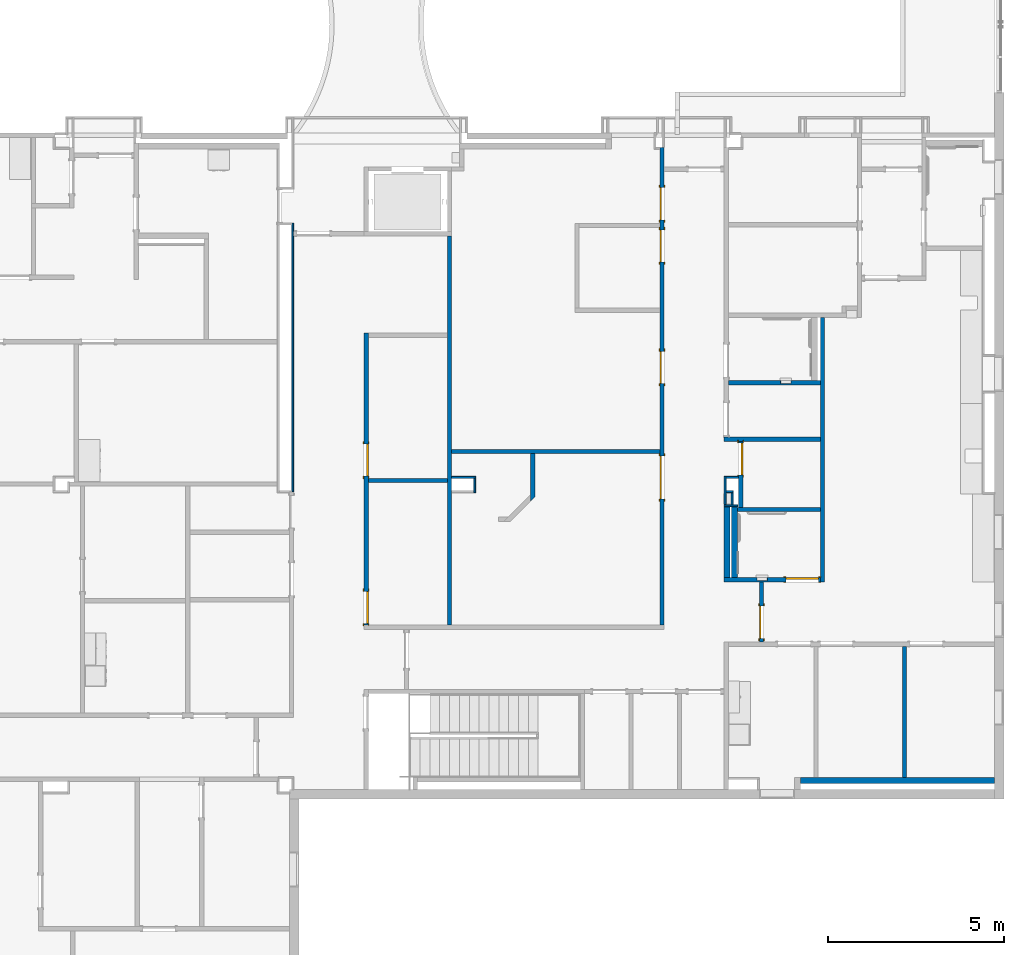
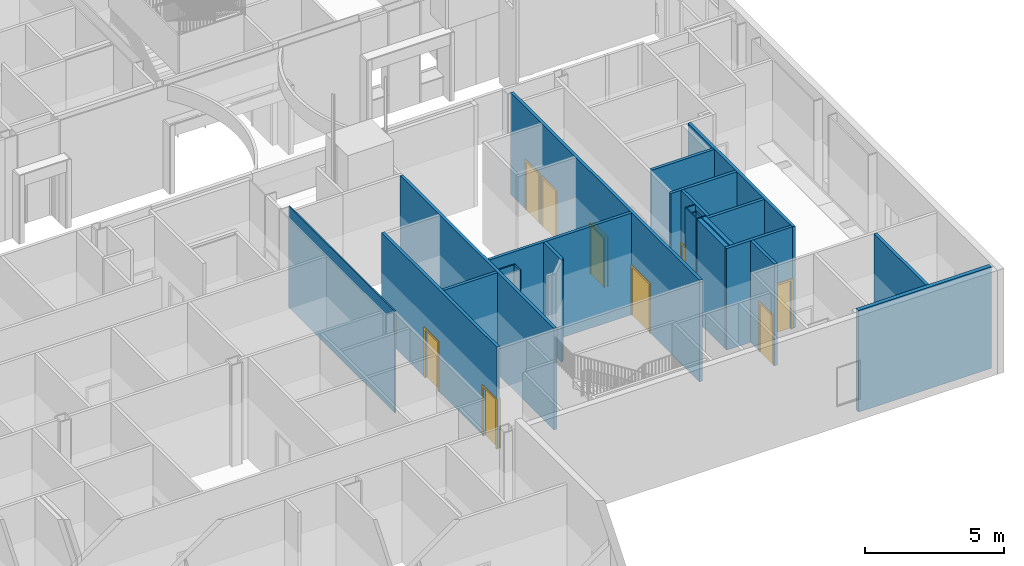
# One storey, part 24 of 82: 25 walls, 9 doors, 11 openings.
"""IFC2X3 building model written with IfcOpenShell, lengths in metres."""

from ifc_helpers import new_model, entity, si_unit, converted_unit, frame, frame_2d, origin, origin_2d_with_axis, place, context, project, spatial, polyline, rectangle, outline, extrude, source, transform, mapped, material, layer, layer_set, layer_usage, type_object, type_shapes, element, fill, save


model = new_model("IFC2X3")

# Units and contexts
model_context = context("Model", 3, precision=1e-09, world=origin())
plan_context = context("Plan", 3, precision=1e-09, world=origin())
ifc_project = project(units=[si_unit("LENGTHUNIT", "METRE"), si_unit("AREAUNIT", "SQUARE_METRE"), si_unit("VOLUMEUNIT", "CUBIC_METRE"), converted_unit("PLANEANGLEUNIT", "DEGREE", entity("IfcRatioMeasure", 0.01745329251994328), si_unit("PLANEANGLEUNIT", "RADIAN"), dimensions=[0, 0, 0, 0, 0, 0, 0]), si_unit("TIMEUNIT", "SECOND")], contexts=[model_context, plan_context])

# Site, building, storey
site_placement = place(None, origin())
site = spatial("IfcSite", under=ifc_project, at=site_placement, Name="Default", CompositionType="ELEMENT")
building_placement = place(site_placement, origin())
building = spatial("IfcBuilding", under=site, at=building_placement, CompositionType="ELEMENT")
storey_placement = place(building_placement, origin())
storey = spatial("IfcBuildingStorey", under=building, at=storey_placement, Name="First Floor", CompositionType="ELEMENT", Elevation=-3.531500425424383e-13)

# Wall
ifc_material_1 = material(Name="Plasterboard")
ifc_layer_1 = layer(ifc_material_1, 0.016)
ifc_material_2 = material(Name="Metal - Stud Layer")
ifc_layer_2 = layer(ifc_material_2, 0.092)
ifc_layer_3 = layer(ifc_material_1, 0.016)
ifc_layer_set_1 = layer_set([ifc_layer_1, ifc_layer_2, ifc_layer_3], Name="Basic Wall:Interior - Partition (92mm Stud)")
ifc_layer_usage_1 = layer_usage(ifc_layer_set_1, "AXIS2", "NEGATIVE", 0.062)
wall_1_placement = place(storey_placement, frame((-15.3980000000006, 14.6139999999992, 0.0), z_axis=(0.0, 0.0, 1.0), x_axis=(0.0, 1.0, 0.0)))
element("IfcWallStandardCase", 1, at=wall_1_placement, inside=storey, material=ifc_layer_usage_1, Name="Basic Wall:Interior - Partition (92mm Stud)", ObjectType="Basic Wall:Interior - Partition (92mm Stud)", context=model_context, shape_type="SweptSolid", body=[
    extrude(rectangle(XDim=11.06940000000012, YDim=0.1240000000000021, at=frame_2d((5.534700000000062, 0.0), x_axis=(-1.0, 0.0))), origin(), (0.0, 0.0, 1.0), 4.468000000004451),
])

# Wall, openings, doors
wall_2_placement = place(storey_placement, frame((-9.351975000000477, 28.2039999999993, 0.0), z_axis=(0.0, 0.0, 1.0), x_axis=(0.0, -1.0, 0.0)))
wall_2 = element("IfcWallStandardCase", 2, at=wall_2_placement, inside=storey, material=ifc_layer_usage_1, Name="Basic Wall:Interior - Partition (92mm Stud)", ObjectType="Basic Wall:Interior - Partition (92mm Stud)", context=model_context, shape_type="SweptSolid", body=[
    extrude(rectangle(XDim=13.59000000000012, YDim=0.124, at=frame_2d((6.795000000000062, 0.0), x_axis=(-1.0, 0.0))), origin(), (0.0, 0.0, 1.0), 4.46800000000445),
])
opening_1_placement = place(wall_2_placement, frame((3.263000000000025, 0.06199999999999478, 0.0)))
opening_1 = element("IfcOpeningElement", 3, at=opening_1_placement, cuts=wall_2, Name="M_Single-Flush:0915 x 2134mm:0915 x 2134mm:1", ObjectType="Opening", context=model_context, shape_type="SweptSolid", body=[
    extrude(rectangle(XDim=0.9149999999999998, YDim=2.134, at=frame_2d((1.067, 0.4575), x_axis=(0.0, 1.0))), frame((0.0, 0.0, 0.0), z_axis=(0.0, -1.0, 0.0), x_axis=(0.0, 0.0, 1.0)), (0.0, 0.0, 1.0), 0.124),
])
opening_2_placement = place(wall_2_placement, frame((2.064000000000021, 0.06199999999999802, 0.0)))
opening_2 = element("IfcOpeningElement", 4, at=opening_2_placement, cuts=wall_2, Name="M_Single-Flush:0915 x 2134mm:0915 x 2134mm:1", ObjectType="Opening", context=model_context, shape_type="SweptSolid", body=[
    extrude(rectangle(XDim=0.9149999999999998, YDim=2.134, at=frame_2d((1.067, 0.4575000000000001), x_axis=(0.0, -1.0))), frame((0.0, 0.0, 0.0), z_axis=(0.0, -1.0, 0.0), x_axis=(0.0, 0.0, 1.0)), (0.0, 0.0, 1.0), 0.124),
])
opening_3_placement = place(wall_2_placement, frame((6.718999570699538, 0.06199999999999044, 0.0)))
opening_3 = element("IfcOpeningElement", 5, at=opening_3_placement, cuts=wall_2, Name="M_Single-Flush:0915 x 2134mm:0915 x 2134mm:1", ObjectType="Opening", context=model_context, shape_type="SweptSolid", body=[
    extrude(rectangle(XDim=0.9149999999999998, YDim=2.134, at=frame_2d((1.067, 0.4574999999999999), x_axis=(0.0, -1.0))), frame((0.0, 0.0, 0.0), z_axis=(0.0, -1.0, 0.0), x_axis=(0.0, 0.0, 1.0)), (0.0, 0.0, 1.0), 0.124),
])
opening_4_placement = place(wall_2_placement, frame((10.00343468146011, 0.06199999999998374, 0.0)))
opening_4 = element("IfcOpeningElement", 6, at=opening_4_placement, cuts=wall_2, Name="M_Single-Flush:1.220 x 2134mm:1.220 x 2134mm:1", ObjectType="Opening", context=model_context, shape_type="SweptSolid", body=[
    extrude(rectangle(XDim=1.22, YDim=2.134, at=frame_2d((1.067, 0.6100000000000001), x_axis=(0.0, 1.0))), frame((0.0, 0.0, 0.0), z_axis=(0.0, -1.0, 0.0), x_axis=(0.0, 0.0, 1.0)), (0.0, 0.0, 1.0), 0.124),
])
door_style_1 = type_object("IfcDoorStyle", Name="0915 x 2134mm", ConstructionType="NOTDEFINED", OperationType="SINGLE_SWING_RIGHT", ParameterTakesPrecedence=False, Sizeable=False)
shared_shape_1 = source(origin(), model_context, "Body", "SweptSolid", [
    extrude(outline(polyline([(-0.5335, -1.123999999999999), (0.5334999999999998, -1.123999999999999), (0.5334999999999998, 1.086), (0.4574999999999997, 1.086), (0.4574999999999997, -1.048000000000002), (-0.4574999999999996, -1.048000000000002), (-0.4574999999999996, 1.086), (-0.5335, 1.086), (-0.5335, -1.123999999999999)])), frame((0.4575000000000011, 0.1239999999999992, 1.086), z_axis=(0.0, 1.0, 0.0), x_axis=(1.0, 0.0, 0.0)), (0.0, 0.0, 1.0), 0.02499999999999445),
    extrude(outline(polyline([(-1.123999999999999, -0.5334999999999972), (1.085999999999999, -0.5334999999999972), (1.085999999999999, -0.4575000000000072), (-1.048, -0.4575000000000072), (-1.048, 0.4575000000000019), (1.085999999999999, 0.4575000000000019), (1.085999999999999, 0.5335000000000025), (-1.123999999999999, 0.5335000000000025), (-1.123999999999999, -0.5334999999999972)])), frame((0.4575000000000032, -0.02500000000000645, 1.085999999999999), z_axis=(0.0, 1.0, 0.0), x_axis=(0.0, 0.0, -1.0)), (0.0, 0.0, 1.0), 0.02500000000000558),
    extrude(rectangle(XDim=0.051, YDim=0.9149999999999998, at=origin_2d_with_axis()), frame((0.4575000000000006, 0.09849999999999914, 0.0), z_axis=(0.0, 0.0, 1.0), x_axis=(0.0, 1.0, 0.0)), (0.0, 0.0, 1.0), 2.133999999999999),
])
type_shapes(door_style_1, [shared_shape_1])
door_1_placement = place(opening_1_placement, frame((0.0, 0.0, 0.0), z_axis=(0.0, 0.0, 1.0), x_axis=(-1.0, 0.0, 0.0)))
door_1 = element("IfcDoor", 7, at=door_1_placement, inside=storey, type_object=door_style_1, Name="M_Single-Flush:0915 x 2134mm:0915 x 2134mm", ObjectType="0915 x 2134mm", OverallHeight=2.134, OverallWidth=0.9149999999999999, context=model_context, shape_type="MappedRepresentation", body=[
    mapped(shared_shape_1, transform((0.0, 0.0, 0.0), scale=1.0)),
])
fill(opening_1, door_1)
door_style_2 = type_object("IfcDoorStyle", Name="0915 x 2134mm", ConstructionType="NOTDEFINED", OperationType="SINGLE_SWING_LEFT", ParameterTakesPrecedence=False, Sizeable=False)
shared_shape_2 = source(origin(), model_context, "Body", "SweptSolid", [
    extrude(outline(polyline([(-0.5335, -1.123999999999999), (0.5334999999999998, -1.123999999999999), (0.5334999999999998, 1.086), (0.4574999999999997, 1.086), (0.4574999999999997, -1.048000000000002), (-0.4574999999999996, -1.048000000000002), (-0.4574999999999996, 1.086), (-0.5335, 1.086), (-0.5335, -1.123999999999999)])), frame((0.4575000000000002, 0.1489999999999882, 1.086), z_axis=(0.0, -1.0, 0.0), x_axis=(-1.0, 0.0, 0.0)), (0.0, 0.0, 1.0), 0.02499999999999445),
    extrude(outline(polyline([(-1.123999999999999, -0.5334999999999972), (1.085999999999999, -0.5334999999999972), (1.085999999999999, -0.4575000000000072), (-1.048, -0.4575000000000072), (-1.048, 0.4575000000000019), (1.085999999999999, 0.4575000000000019), (1.085999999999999, 0.5335000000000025), (-1.123999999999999, 0.5335000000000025), (-1.123999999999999, -0.5334999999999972)])), frame((0.4574999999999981, 0.0, 1.085999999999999), z_axis=(0.0, -1.0, 0.0), x_axis=(0.0, 0.0, -1.0)), (0.0, 0.0, 1.0), 0.02500000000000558),
    extrude(rectangle(XDim=0.9149999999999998, YDim=0.051, at=origin_2d_with_axis()), frame((0.4575000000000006, 0.09849999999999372, 0.0)), (0.0, 0.0, 1.0), 2.133999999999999),
])
type_shapes(door_style_2, [shared_shape_2])
door_2_placement = place(opening_2_placement, frame((0.0, 0.0, 0.0), z_axis=(0.0, 0.0, 1.0), x_axis=(-1.0, 0.0, 0.0)))
door_2 = element("IfcDoor", 8, at=door_2_placement, inside=storey, type_object=door_style_2, Name="M_Single-Flush:0915 x 2134mm:0915 x 2134mm", ObjectType="0915 x 2134mm", OverallHeight=2.134, OverallWidth=0.9149999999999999, context=model_context, shape_type="MappedRepresentation", body=[
    mapped(shared_shape_2, transform((0.0, 0.0, 0.0), scale=1.0)),
])
fill(opening_2, door_2)
door_3_placement = place(opening_3_placement, frame((0.0, 0.0, 0.0), z_axis=(0.0, 0.0, 1.0), x_axis=(-1.0, 0.0, 0.0)))
door_3 = element("IfcDoor", 9, at=door_3_placement, inside=storey, type_object=door_style_2, Name="M_Single-Flush:0915 x 2134mm:0915 x 2134mm", ObjectType="0915 x 2134mm", OverallHeight=2.134, OverallWidth=0.9149999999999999, context=model_context, shape_type="MappedRepresentation", body=[
    mapped(shared_shape_2, transform((0.0, 0.0, 0.0), scale=1.0)),
])
fill(opening_3, door_3)
door_style_3 = type_object("IfcDoorStyle", Name="1.220 x 2134mm", ConstructionType="NOTDEFINED", OperationType="SINGLE_SWING_RIGHT", ParameterTakesPrecedence=False, Sizeable=False)
shared_shape_3 = source(origin(), model_context, "Body", "SweptSolid", [
    extrude(outline(polyline([(-0.6859999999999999, -1.123999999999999), (0.6859999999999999, -1.123999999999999), (0.6859999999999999, 1.086), (0.61, 1.086), (0.61, -1.048000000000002), (-0.6099999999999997, -1.048000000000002), (-0.6099999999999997, 1.086), (-0.6859999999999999, 1.086), (-0.6859999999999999, -1.123999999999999)])), frame((0.610000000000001, 0.1240000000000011, 1.086), z_axis=(0.0, 1.0, 0.0), x_axis=(1.0, 0.0, 0.0)), (0.0, 0.0, 1.0), 0.02499999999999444),
    extrude(outline(polyline([(-1.124, -0.6859999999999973), (1.086, -0.6859999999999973), (1.086, -0.6100000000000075), (-1.048, -0.6100000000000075), (-1.048, 0.6100000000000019), (1.086, 0.6100000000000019), (1.086, 0.6860000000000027), (-1.124, 0.6860000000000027), (-1.124, -0.6859999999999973)])), frame((0.6100000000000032, -0.02500000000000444, 1.086), z_axis=(0.0, 1.0, 0.0), x_axis=(0.0, 0.0, -1.0)), (0.0, 0.0, 1.0), 0.02500000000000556),
    extrude(rectangle(XDim=0.051, YDim=1.22, at=origin_2d_with_axis()), frame((0.6100000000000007, 0.09850000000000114, 0.0), z_axis=(0.0, 0.0, 1.0), x_axis=(0.0, 1.0, 0.0)), (0.0, 0.0, 1.0), 2.133999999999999),
])
type_shapes(door_style_3, [shared_shape_3])
door_4_placement = place(opening_4_placement, frame((0.0, 0.0, 0.0), z_axis=(0.0, 0.0, 1.0), x_axis=(-1.0, 0.0, 0.0)))
door_4 = element("IfcDoor", 10, at=door_4_placement, inside=storey, type_object=door_style_3, Name="M_Single-Flush:1.220 x 2134mm:1.220 x 2134mm", ObjectType="1.220 x 2134mm", OverallHeight=2.134, OverallWidth=1.22, context=model_context, shape_type="MappedRepresentation", body=[
    mapped(shared_shape_3, transform((0.0, 0.0, 0.0), scale=1.0)),
])
fill(opening_4, door_4)

# Wall
wall_3_placement = place(storey_placement, frame((-4.781975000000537, 23.35999999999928, 0.0), z_axis=(0.0, 0.0, 1.0), x_axis=(0.0, -1.0, 0.0)))
element("IfcWallStandardCase", 11, at=wall_3_placement, inside=storey, material=ifc_layer_usage_1, Name="Basic Wall:Interior - Partition (92mm Stud)", ObjectType="Basic Wall:Interior - Partition (92mm Stud)", context=model_context, shape_type="SweptSolid", body=[
    extrude(rectangle(XDim=7.52000000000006, YDim=0.124, at=frame_2d((3.76000000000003, 0.0), x_axis=(-1.0, 0.0))), origin(), (0.0, 0.0, 1.0), 4.46800000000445),
])

# Wall, openings, door
wall_4_placement = place(storey_placement, frame((-4.843975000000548, 15.90199999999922, 0.0), z_axis=(0.0, 0.0, 1.0), x_axis=(-1.0, 0.0, 0.0)))
wall_4 = element("IfcWallStandardCase", 12, at=wall_4_placement, inside=storey, material=ifc_layer_usage_1, Name="Basic Wall:Interior - Partition (92mm Stud)", ObjectType="Basic Wall:Interior - Partition (92mm Stud)", context=model_context, shape_type="SweptSolid", body=[
    extrude(rectangle(XDim=2.736000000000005, YDim=0.1240000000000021, at=frame_2d((1.368000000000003, 0.0), x_axis=(-1.0, 0.0))), origin(), (0.0, 0.0, 1.0), 4.468000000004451),
])
opening_5_placement = place(wall_4_placement, origin())
element("IfcOpeningElement", 13, at=opening_5_placement, cuts=wall_4, ObjectType="Opening", context=model_context, shape_type="SweptSolid", body=[
    extrude(rectangle(XDim=1.362075, YDim=0.2984500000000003, at=origin_2d_with_axis()), frame((1.660925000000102, -0.1255000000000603, 1.041399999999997), z_axis=(0.0, 1.0, 0.0), x_axis=(0.0, 0.0, -1.0)), (0.0, 0.0, 1.0), 0.1524000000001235),
])
opening_6_placement = place(wall_4_placement, frame((0.9750000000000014, 0.06199999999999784, 0.0)))
opening_6 = element("IfcOpeningElement", 14, at=opening_6_placement, cuts=wall_4, Name="M_Single-Flush:0915 x 2134mm:0915 x 2134mm:1", ObjectType="Opening", context=model_context, shape_type="SweptSolid", body=[
    extrude(rectangle(XDim=0.9150000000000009, YDim=2.134, at=frame_2d((1.067, 0.4575), x_axis=(0.0, 1.0))), frame((0.0, 0.0, 0.0), z_axis=(0.0, -1.0, 0.0), x_axis=(0.0, 0.0, 1.0)), (0.0, 0.0, 1.0), 0.124),
])
door_5_placement = place(opening_6_placement, frame((0.0, 0.0, 0.0), z_axis=(0.0, 0.0, 1.0), x_axis=(-1.0, 0.0, 0.0)))
door_5 = element("IfcDoor", 15, at=door_5_placement, inside=storey, type_object=door_style_1, Name="M_Single-Flush:0915 x 2134mm:0915 x 2134mm", ObjectType="0915 x 2134mm", OverallHeight=2.134, OverallWidth=0.9149999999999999, context=model_context, shape_type="MappedRepresentation", body=[
    mapped(shared_shape_1, transform((0.0, 0.0, 0.0), scale=1.0)),
])
fill(opening_6, door_5)

# Wall, openings, doors
wall_5_placement = place(storey_placement, frame((-17.76800000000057, 14.61399999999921, 0.0), z_axis=(0.0, 0.0, 1.0), x_axis=(0.0, 1.0, 0.0)))
wall_5 = element("IfcWallStandardCase", 16, at=wall_5_placement, inside=storey, material=ifc_layer_usage_1, Name="Basic Wall:Interior - Partition (92mm Stud)", ObjectType="Basic Wall:Interior - Partition (92mm Stud)", context=model_context, shape_type="SweptSolid", body=[
    extrude(rectangle(XDim=8.306030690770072, YDim=0.1240000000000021, at=frame_2d((4.153015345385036, 0.0), x_axis=(-1.0, 0.0))), origin(), (0.0, 0.0, 1.0), 4.46800000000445),
])
opening_7_placement = place(wall_5_placement, frame((5.145030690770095, 0.06199999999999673, 0.0)))
opening_7 = element("IfcOpeningElement", 17, at=opening_7_placement, cuts=wall_5, Name="M_Single-Flush:0915 x 2134mm:0915 x 2134mm:1", ObjectType="Opening", context=model_context, shape_type="SweptSolid", body=[
    extrude(rectangle(XDim=0.9149999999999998, YDim=2.134, at=frame_2d((1.067, 0.4575), x_axis=(0.0, 1.0))), frame((0.0, 0.0, 0.0), z_axis=(0.0, -1.0, 0.0), x_axis=(0.0, 0.0, 1.0)), (0.0, 0.0, 1.0), 0.124),
])
opening_8_placement = place(wall_5_placement, frame((0.9549999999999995, 0.06200000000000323, 0.0)))
opening_8 = element("IfcOpeningElement", 18, at=opening_8_placement, cuts=wall_5, Name="M_Single-Flush:0915 x 2134mm:0915 x 2134mm:1", ObjectType="Opening", context=model_context, shape_type="SweptSolid", body=[
    extrude(rectangle(XDim=0.9149999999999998, YDim=2.134, at=frame_2d((1.067, 0.4575), x_axis=(0.0, 1.0))), frame((0.0, 0.0, 0.0), z_axis=(0.0, -1.0, 0.0), x_axis=(0.0, 0.0, 1.0)), (0.0, 0.0, 1.0), 0.124),
])
door_6_placement = place(opening_8_placement, frame((0.0, 0.0, 0.0), z_axis=(0.0, 0.0, 1.0), x_axis=(-1.0, 0.0, 0.0)))
door_6 = element("IfcDoor", 19, at=door_6_placement, inside=storey, type_object=door_style_1, Name="M_Single-Flush:0915 x 2134mm:0915 x 2134mm", ObjectType="0915 x 2134mm", OverallHeight=2.134, OverallWidth=0.9149999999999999, context=model_context, shape_type="MappedRepresentation", body=[
    mapped(shared_shape_1, transform((0.0, 0.0, 0.0), scale=1.0)),
])
fill(opening_8, door_6)
door_7_placement = place(opening_7_placement, frame((0.0, 0.0, 0.0), z_axis=(0.0, 0.0, 1.0), x_axis=(-1.0, 0.0, 0.0)))
door_7 = element("IfcDoor", 20, at=door_7_placement, inside=storey, type_object=door_style_1, Name="M_Single-Flush:0915 x 2134mm:0915 x 2134mm", ObjectType="0915 x 2134mm", OverallHeight=2.134, OverallWidth=0.9149999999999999, context=model_context, shape_type="MappedRepresentation", body=[
    mapped(shared_shape_1, transform((0.0, 0.0, 0.0), scale=1.0)),
])
fill(opening_7, door_7)

# Wall, opening, door
wall_6_placement = place(storey_placement, frame((-7.112000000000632, 19.82999999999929, 0.0), z_axis=(0.0, 0.0, 1.0), x_axis=(0.0, -1.0, 0.0)))
wall_6 = element("IfcWallStandardCase", 21, at=wall_6_placement, inside=storey, material=ifc_layer_usage_1, Name="Basic Wall:Interior - Partition (92mm Stud)", ObjectType="Basic Wall:Interior - Partition (92mm Stud)", context=model_context, shape_type="SweptSolid", body=[
    extrude(rectangle(XDim=1.870000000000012, YDim=0.124, at=frame_2d((0.9350000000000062, 0.0), x_axis=(-1.0, 0.0))), origin(), (0.0, 0.0, 1.0), 4.46800000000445),
])
opening_9_placement = place(wall_6_placement, frame((0.03750000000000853, -0.06200000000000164, 0.0)))
opening_9 = element("IfcOpeningElement", 22, at=opening_9_placement, cuts=wall_6, Name="M_Single-Flush:0915 x 2134mm:0915 x 2134mm:1", ObjectType="Opening", context=model_context, shape_type="SweptSolid", body=[
    extrude(rectangle(XDim=0.9149999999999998, YDim=2.134, at=frame_2d((1.067, 0.4575000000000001), x_axis=(0.0, -1.0))), frame((0.0, 0.0, 0.0), z_axis=(0.0, 1.0, 0.0), x_axis=(0.0, 0.0, 1.0)), (0.0, 0.0, 1.0), 0.124),
])
door_8_placement = place(opening_9_placement, origin())
door_8 = element("IfcDoor", 23, at=door_8_placement, inside=storey, type_object=door_style_2, Name="M_Single-Flush:0915 x 2134mm:0915 x 2134mm", ObjectType="0915 x 2134mm", OverallHeight=2.134, OverallWidth=0.9149999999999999, context=model_context, shape_type="MappedRepresentation", body=[
    mapped(shared_shape_2, transform((0.0, 0.0, 0.0), scale=1.0)),
])
fill(opening_9, door_8)

# Walls
wall_7_placement = place(storey_placement, frame((-4.843975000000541, 19.89199999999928, 0.0), z_axis=(0.0, 0.0, 1.0), x_axis=(-1.0, 0.0, 0.0)))
element("IfcWallStandardCase", 24, at=wall_7_placement, inside=storey, material=ifc_layer_usage_1, Name="Basic Wall:Interior - Partition (92mm Stud)", ObjectType="Basic Wall:Interior - Partition (92mm Stud)", context=model_context, shape_type="SweptSolid", body=[
    extrude(rectangle(XDim=2.736000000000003, YDim=0.1239999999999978, at=frame_2d((1.368000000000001, 0.0), x_axis=(-1.0, 0.0))), origin(), (0.0, 0.0, 1.0), 4.46800000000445),
])
ifc_layer_4 = layer(ifc_material_2, 0.038)
ifc_layer_5 = layer(ifc_material_1, 0.016)
ifc_layer_set_2 = layer_set([ifc_layer_4, ifc_layer_5], Name="Basic Wall:Interior - Furring (38 mm Stud)")
ifc_layer_usage_2 = layer_usage(ifc_layer_set_2, "AXIS2", "NEGATIVE", 0.027)
wall_8_placement = place(storey_placement, frame((-19.85700000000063, 18.40699999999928, 0.0), z_axis=(0.0, 0.0, 1.0), x_axis=(0.0, 1.0, 0.0)))
element("IfcWallStandardCase", 25, at=wall_8_placement, inside=storey, material=ifc_layer_usage_2, Name="Basic Wall:Interior - Furring (38 mm Stud)", ObjectType="Basic Wall:Interior - Furring (38 mm Stud)", context=model_context, shape_type="SweptSolid", body=[
    extrude(rectangle(XDim=7.639, YDim=0.05399999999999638, at=frame_2d((3.8195, 0.0), x_axis=(-1.0, 0.0))), origin(), (0.0, 0.0, 1.0), 4.46800000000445),
])

# Wall, opening
wall_9_placement = place(storey_placement, frame((-7.455975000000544, 21.50799999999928, 0.0)))
wall_9 = element("IfcWallStandardCase", 26, at=wall_9_placement, inside=storey, material=ifc_layer_usage_1, Name="Basic Wall:Interior - Partition (92mm Stud)", ObjectType="Basic Wall:Interior - Partition (92mm Stud)", context=model_context, shape_type="SweptSolid", body=[
    extrude(rectangle(XDim=2.612000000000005, YDim=0.1239999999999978, at=frame_2d((1.306000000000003, 0.0), x_axis=(-1.0, 0.0))), origin(), (0.0, 0.0, 1.0), 4.46800000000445),
])
opening_10_placement = place(wall_9_placement, origin())
element("IfcOpeningElement", 27, at=opening_10_placement, cuts=wall_9, ObjectType="Opening", context=model_context, shape_type="SweptSolid", body=[
    extrude(rectangle(XDim=1.362075, YDim=0.2984500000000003, at=frame_2d((0.0, 0.0), x_axis=(0.0, 1.0))), frame((1.630900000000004, -0.02690000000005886, 1.041399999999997), z_axis=(0.0, 1.0, 0.0), x_axis=(1.0, 0.0, 0.0)), (0.0, 0.0, 1.0), 0.1524000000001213),
])

# Walls
ifc_layer_6 = layer(ifc_material_2, 0.152)
ifc_layer_7 = layer(ifc_material_1, 0.016)
ifc_layer_set_3 = layer_set([ifc_layer_6, ifc_layer_7], Name="Basic Wall:Interior - Furring (152 mm Stud)")
ifc_layer_usage_3 = layer_usage(ifc_layer_set_3, "AXIS2", "POSITIVE", -0.08399999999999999)
wall_10_placement = place(storey_placement, frame((-5.41530308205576, 10.18599999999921, 0.0)))
element("IfcWallStandardCase", 28, at=wall_10_placement, inside=storey, material=ifc_layer_usage_3, Name="Basic Wall:Interior - Furring (152 mm Stud)", ObjectType="Basic Wall:Interior - Furring (152 mm Stud)", context=model_context, shape_type="SweptSolid", body=[
    extrude(rectangle(XDim=5.528303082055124, YDim=0.1680000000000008, at=frame_2d((2.764151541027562, 0.0), x_axis=(-1.0, 0.0))), origin(), (0.0, 0.0, 1.0), 4.468000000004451),
])
wall_11_placement = place(storey_placement, frame((-7.199975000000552, 17.89799999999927, 0.0)))
element("IfcWallStandardCase", 29, at=wall_11_placement, inside=storey, material=ifc_layer_usage_1, Name="Basic Wall:Interior - Partition (92mm Stud)", ObjectType="Basic Wall:Interior - Partition (92mm Stud)", context=model_context, shape_type="SweptSolid", body=[
    extrude(rectangle(XDim=2.356000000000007, YDim=0.1240000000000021, at=frame_2d((1.178000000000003, 0.0), x_axis=(-1.0, 0.0))), origin(), (0.0, 0.0, 1.0), 4.468000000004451),
])
wall_12_placement = place(storey_placement, frame((-15.3360000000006, 19.54799999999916, 0.0)))
element("IfcWallStandardCase", 30, at=wall_12_placement, inside=storey, material=ifc_layer_usage_1, Name="Basic Wall:Interior - Partition (92mm Stud)", ObjectType="Basic Wall:Interior - Partition (92mm Stud)", context=model_context, shape_type="SweptSolid", body=[
    extrude(rectangle(XDim=5.922025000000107, YDim=0.124, at=frame_2d((2.961012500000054, 0.0), x_axis=(-1.0, 0.0))), origin(), (0.0, 0.0, 1.0), 4.46800000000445),
])
ifc_layer_usage_4 = layer_usage(ifc_layer_set_2, "AXIS2", "POSITIVE", -0.027)
wall_13_placement = place(storey_placement, frame((-7.55297500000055, 18.0299999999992, 0.0), z_axis=(0.0, 0.0, 1.0), x_axis=(0.0, 1.0, 0.0)))
element("IfcWallStandardCase", 31, at=wall_13_placement, inside=storey, material=ifc_layer_usage_4, Name="Basic Wall:Interior - Furring (38 mm Stud)", ObjectType="Basic Wall:Interior - Furring (38 mm Stud)", context=model_context, shape_type="SweptSolid", body=[
    extrude(rectangle(XDim=0.8100000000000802, YDim=0.05400000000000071, at=frame_2d((0.4050000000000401, 0.0), x_axis=(-1.0, 0.0))), origin(), (0.0, 0.0, 1.0), 4.46800000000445),
])

# Wall, opening, door
wall_14_placement = place(storey_placement, frame((-6.517975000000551, 14.12999999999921, 0.0), z_axis=(0.0, 0.0, 1.0), x_axis=(0.0, 1.0, 0.0)))
wall_14 = element("IfcWallStandardCase", 32, at=wall_14_placement, inside=storey, material=ifc_layer_usage_1, Name="Basic Wall:Interior - Partition (92mm Stud)", ObjectType="Basic Wall:Interior - Partition (92mm Stud)", context=model_context, shape_type="SweptSolid", body=[
    extrude(rectangle(XDim=1.710000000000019, YDim=0.124, at=frame_2d((0.8550000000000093, 0.0), x_axis=(-1.0, 0.0))), origin(), (0.0, 0.0, 1.0), 4.46800000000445),
])
opening_11_placement = place(wall_14_placement, frame((0.1000000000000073, -0.06200000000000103, 0.0)))
opening_11 = element("IfcOpeningElement", 33, at=opening_11_placement, cuts=wall_14, Name="M_Single-Flush:0915 x 2134mm:0915 x 2134mm:1", ObjectType="Opening", context=model_context, shape_type="SweptSolid", body=[
    extrude(rectangle(XDim=0.9149999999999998, YDim=2.134, at=frame_2d((1.067, 0.4575000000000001), x_axis=(0.0, -1.0))), frame((0.0, 0.0, 0.0), z_axis=(0.0, 1.0, 0.0), x_axis=(0.0, 0.0, 1.0)), (0.0, 0.0, 1.0), 0.124),
])
door_9_placement = place(opening_11_placement, origin())
door_9 = element("IfcDoor", 34, at=door_9_placement, inside=storey, type_object=door_style_2, Name="M_Single-Flush:0915 x 2134mm:0915 x 2134mm", ObjectType="0915 x 2134mm", OverallHeight=2.134, OverallWidth=0.9149999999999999, context=model_context, shape_type="MappedRepresentation", body=[
    mapped(shared_shape_2, transform((0.0, 0.0, 0.0), scale=1.0)),
])
fill(opening_11, door_9)

# Walls
wall_15_placement = place(storey_placement, frame((-7.57997500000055, 18.0029999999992, 0.0)))
element("IfcWallStandardCase", 35, at=wall_15_placement, inside=storey, material=ifc_layer_usage_4, Name="Basic Wall:Interior - Furring (38 mm Stud)", ObjectType="Basic Wall:Interior - Furring (38 mm Stud)", context=model_context, shape_type="SweptSolid", body=[
    extrude(rectangle(XDim=0.3799999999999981, YDim=0.05400000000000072, at=frame_2d((0.189999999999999, 0.0), x_axis=(-1.0, 0.0))), origin(), (0.0, 0.0, 1.0), 4.46800000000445),
])
wall_16_placement = place(storey_placement, frame((-7.283975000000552, 17.9759999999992, 0.0), z_axis=(0.0, 0.0, 1.0), x_axis=(0.0, -1.0, 0.0)))
element("IfcWallStandardCase", 36, at=wall_16_placement, inside=storey, material=ifc_layer_usage_3, Name="Basic Wall:Interior - Furring (152 mm Stud)", ObjectType="Basic Wall:Interior - Furring (152 mm Stud)", context=model_context, shape_type="SweptSolid", body=[
    extrude(rectangle(XDim=2.011999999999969, YDim=0.1680000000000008, at=frame_2d((1.005999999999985, 0.0), x_axis=(-1.0, 0.0))), origin(), (0.0, 0.0, 1.0), 4.46800000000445),
])
wall_17_placement = place(storey_placement, frame((-2.45197500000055, 14.0059999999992, 0.0), z_axis=(0.0, 0.0, 1.0), x_axis=(0.0, -1.0, 0.0)))
element("IfcWallStandardCase", 37, at=wall_17_placement, inside=storey, material=ifc_layer_usage_1, Name="Basic Wall:Interior - Partition (92mm Stud)", ObjectType="Basic Wall:Interior - Partition (92mm Stud)", context=model_context, shape_type="SweptSolid", body=[
    extrude(rectangle(XDim=3.735999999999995, YDim=0.124, at=frame_2d((1.867999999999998, 0.0), x_axis=(-1.0, 0.0))), origin(), (0.0, 0.0, 1.0), 4.46800000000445),
])
wall_18_placement = place(storey_placement, frame((-7.495975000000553, 15.96399999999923, 0.0), z_axis=(0.0, 0.0, 1.0), x_axis=(0.0, 1.0, 0.0)))
element("IfcWallStandardCase", 38, at=wall_18_placement, inside=storey, material=ifc_layer_usage_3, Name="Basic Wall:Interior - Furring (152 mm Stud)", ObjectType="Basic Wall:Interior - Furring (152 mm Stud)", context=model_context, shape_type="SweptSolid", body=[
    extrude(rectangle(XDim=2.011999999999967, YDim=0.1680000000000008, at=frame_2d((1.005999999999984, 0.0), x_axis=(-1.0, 0.0))), origin(), (0.0, 0.0, 1.0), 4.46800000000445),
])
wall_19_placement = place(storey_placement, frame((-15.4600000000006, 18.72203069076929, 0.0), z_axis=(0.0, 0.0, 1.0), x_axis=(-1.0, 0.0, 0.0)))
element("IfcWallStandardCase", 39, at=wall_19_placement, inside=storey, material=ifc_layer_usage_1, Name="Basic Wall:Interior - Partition (92mm Stud)", ObjectType="Basic Wall:Interior - Partition (92mm Stud)", context=model_context, shape_type="SweptSolid", body=[
    extrude(rectangle(XDim=2.24599999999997, YDim=0.1240000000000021, at=frame_2d((1.122999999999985, 0.0), x_axis=(-1.0, 0.0))), origin(), (0.0, 0.0, 1.0), 4.46800000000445),
])
wall_20_placement = place(storey_placement, frame((-14.67697500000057, 18.78599999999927, 0.0), z_axis=(0.0, 0.0, 1.0), x_axis=(0.0, -1.0, 0.0)))
element("IfcWallStandardCase", 40, at=wall_20_placement, inside=storey, material=ifc_layer_usage_4, Name="Basic Wall:Interior - Furring (38 mm Stud)", ObjectType="Basic Wall:Interior - Furring (38 mm Stud)", context=model_context, shape_type="SweptSolid", body=[
    extrude(rectangle(XDim=0.4059999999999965, YDim=0.05400000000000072, at=frame_2d((0.2029999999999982, 0.0), x_axis=(-1.0, 0.0))), origin(), (0.0, 0.0, 1.0), 4.46800000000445),
])
wall_21_placement = place(storey_placement, frame((-7.525975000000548, 18.81299999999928, 0.0)))
element("IfcWallStandardCase", 41, at=wall_21_placement, inside=storey, material=ifc_layer_usage_4, Name="Basic Wall:Interior - Furring (38 mm Stud)", ObjectType="Basic Wall:Interior - Furring (38 mm Stud)", context=model_context, shape_type="SweptSolid", body=[
    extrude(rectangle(XDim=0.3519749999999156, YDim=0.05400000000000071, at=frame_2d((0.1759874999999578, 0.0), x_axis=(-1.0, 0.0))), origin(), (0.0, 0.0, 1.0), 4.46800000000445),
])
wall_22_placement = place(storey_placement, frame((-15.3360000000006, 18.81299999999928, 0.0)))
element("IfcWallStandardCase", 42, at=wall_22_placement, inside=storey, material=ifc_layer_usage_4, Name="Basic Wall:Interior - Furring (38 mm Stud)", ObjectType="Basic Wall:Interior - Furring (38 mm Stud)", context=model_context, shape_type="SweptSolid", body=[
    extrude(rectangle(XDim=0.6860250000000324, YDim=0.05400000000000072, at=frame_2d((0.3430125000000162, 0.0), x_axis=(-1.0, 0.0))), origin(), (0.0, 0.0, 1.0), 4.46800000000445),
])
wall_23_placement = place(storey_placement, frame((-7.328475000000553, 18.40699999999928, 0.0), z_axis=(0.0, 0.0, 1.0), x_axis=(-1.0, 0.0, 0.0)))
element("IfcWallStandardCase", 43, at=wall_23_placement, inside=storey, material=ifc_layer_usage_4, Name="Basic Wall:Interior - Furring (38 mm Stud)", ObjectType="Basic Wall:Interior - Furring (38 mm Stud)", context=model_context, shape_type="SweptSolid", body=[
    extrude(rectangle(XDim=0.1974999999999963, YDim=0.05400000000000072, at=frame_2d((0.09874999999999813, 0.0), x_axis=(-1.0, 0.0))), origin(), (0.0, 0.0, 1.0), 4.468000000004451),
])
wall_24_placement = place(storey_placement, frame((-7.355475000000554, 18.0299999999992, 0.0), z_axis=(0.0, 0.0, 1.0), x_axis=(0.0, 1.0, 0.0)))
element("IfcWallStandardCase", 44, at=wall_24_placement, inside=storey, material=ifc_layer_usage_4, Name="Basic Wall:Interior - Furring (38 mm Stud)", ObjectType="Basic Wall:Interior - Furring (38 mm Stud)", context=model_context, shape_type="SweptSolid", body=[
    extrude(rectangle(XDim=0.3500000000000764, YDim=0.05400000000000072, at=frame_2d((0.1750000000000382, 0.0), x_axis=(-1.0, 0.0))), origin(), (0.0, 0.0, 1.0), 4.46800000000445),
])
wall_25_placement = place(storey_placement, frame((-13.02700950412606, 19.48599999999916, 0.0), z_axis=(0.0, 0.0, 1.0), x_axis=(0.0, -1.0, 0.0)))
element("IfcWallStandardCase", 45, at=wall_25_placement, inside=storey, material=ifc_layer_usage_1, Name="Basic Wall:Interior - Partition (92mm Stud)", ObjectType="Basic Wall:Interior - Partition (92mm Stud)", context=model_context, shape_type="SweptSolid", body=[
    extrude(outline(polyline([(1.347279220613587, -0.06199999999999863), (1.223279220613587, 0.06200000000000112), (0.0, 0.06200000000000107), (0.0, -0.0619999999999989), (1.171916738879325, -0.06199999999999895), (1.347279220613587, -0.06199999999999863)])), origin(), (0.0, 0.0, 1.0), 4.46800000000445),
])

save(model, "model.ifc")
